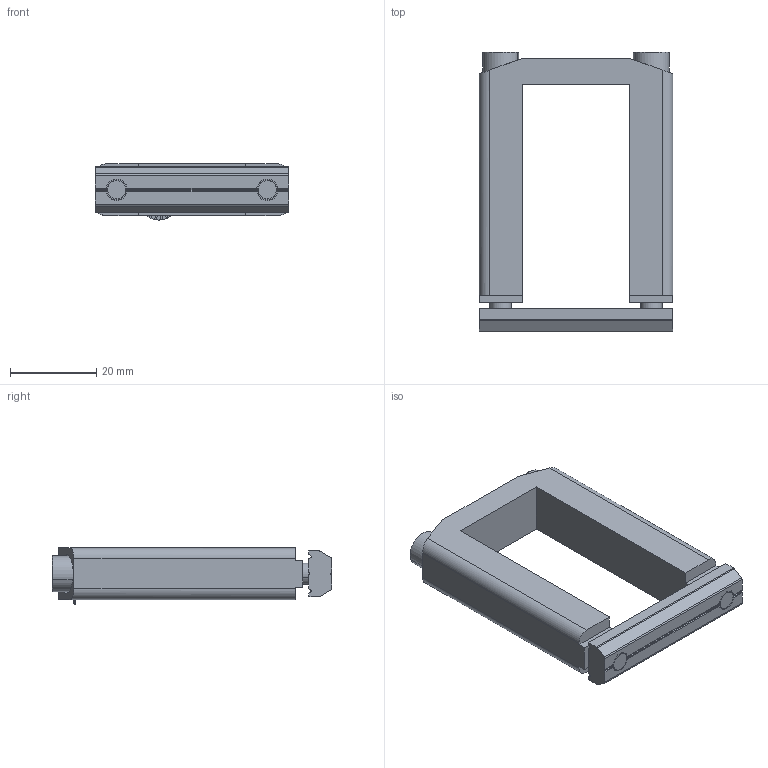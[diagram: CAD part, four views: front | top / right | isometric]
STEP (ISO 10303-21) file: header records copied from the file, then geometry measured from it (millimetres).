
FILE_DESCRIPTION (( 'STEP AP214' ), '1' );
FILE_NAME ('SMBB-5025T.STEP', '2022-12-08T07:42:31', ( '' ), ( '' ), 'SwSTEP 2.0', 'SolidWorks 2018', '' );
FILE_SCHEMA (( 'AUTOMOTIVE_DESIGN' ));
Length unit declared in the file: millimetre
Products named in the file (5): PTN-M5P35; PTS-M5; SMBB-5025; SMBB-5025T; PTC-M5L60
Assembly tree (6 placements, depth 2):
  SMBB-5025T
    SMBB-5025
    PTS-M5  x2
    PTC-M5L60  x2
    PTN-M5P35
Bounding box: 45 x 65 x 13.02 mm (x, y, z)
Volume: 16978 mm3; surface area: 11843.6 mm2
Topology: 6 solids, 6 shells, 463 faces, 1347 edges, 894 vertices
Faces by surface type: plane 390, cylinder 61, cone 12
Entity records: 9569 total; most frequent: CARTESIAN_POINT 1809, ORIENTED_EDGE 1626, DIRECTION 1573, EDGE_CURVE 813, VERTEX_POINT 540, AXIS2_PLACEMENT_3D 528, VECTOR 517, LINE 517
